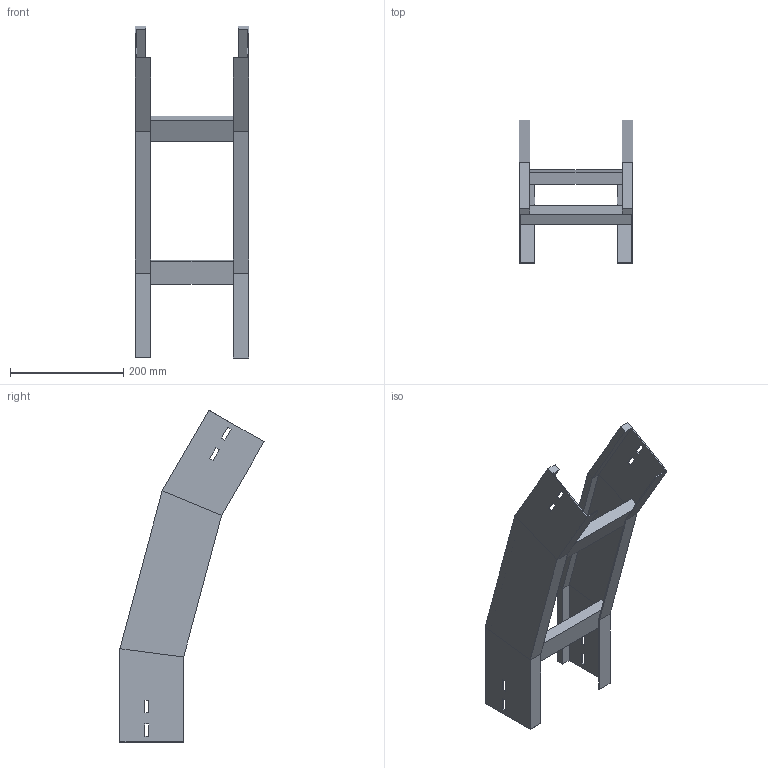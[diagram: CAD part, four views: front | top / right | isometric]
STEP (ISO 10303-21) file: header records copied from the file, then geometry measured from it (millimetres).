
FILE_DESCRIPTION (( 'STEP AP214' ), '1' );
FILE_NAME ('35B5J200.step', '2025-02-21T14:47:16', ( '' ), ( '' ), 'SwSTEP 2.0', 'SolidWorks 2023', '' );
FILE_SCHEMA (( 'AUTOMOTIVE_DESIGN' ));
Length unit declared in the file: millimetre
Products named in the file (3): 35B5J200; LONGH.DISCESA_30°_H112.5_R500; TRAVERSINO_200
Assembly tree (5 placements, depth 2):
  35B5J200
    LONGH.DISCESA_30°_H112.5_R500  x2
    TRAVERSINO_200  x3
Bounding box: 200 x 254.53 x 586.33 mm (x, y, z)
Volume: 1030840.7 mm3; surface area: 441246.8 mm2
Topology: 5 solids, 5 shells, 102 faces, 244 edges, 152 vertices
Faces by surface type: plane 102
Entity records: 1480 total; most frequent: CARTESIAN_POINT 244, ORIENTED_EDGE 232, DIRECTION 228, EDGE_CURVE 116, VECTOR 116, LINE 116, VERTEX_POINT 72, EDGE_LOOP 56
